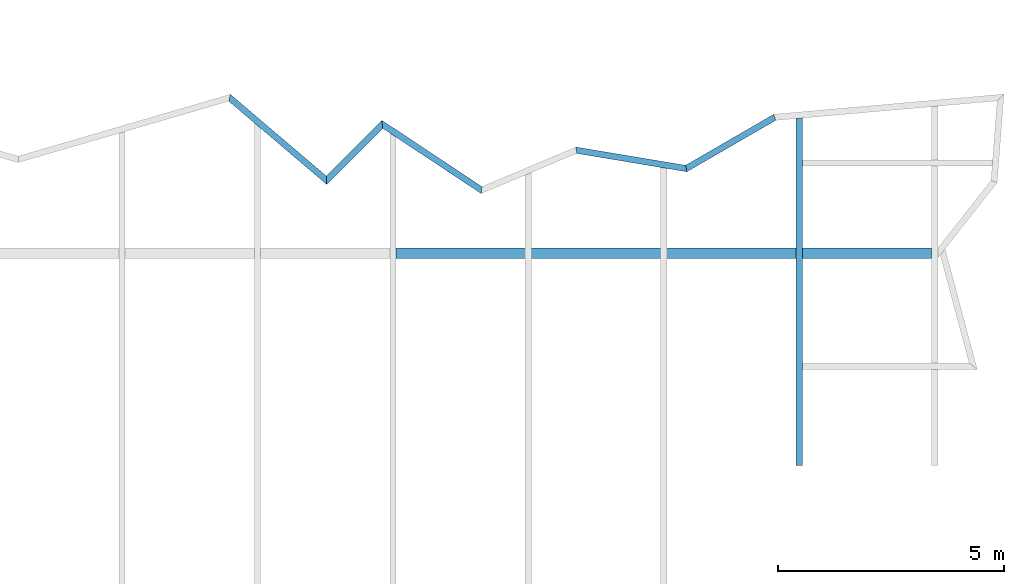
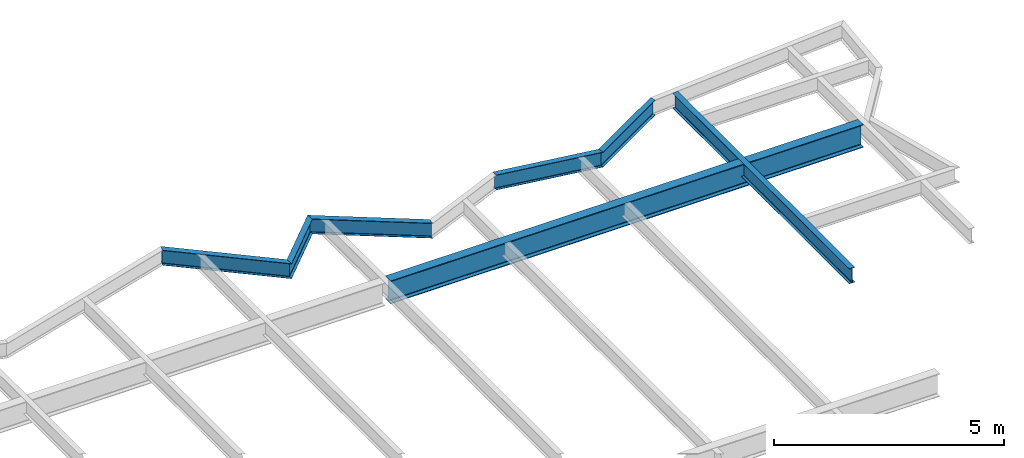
# One storey, part 22 of 23: 7 beams.
"""IFC2X3 building model written with IfcOpenShell, lengths in millimetres."""

from ifc_helpers import new_model, si_unit, origin, place, context, project, spatial, faceted_brep, material, element, save


model = new_model("IFC2X3")

# Units and contexts
context_of_model = context(None, 3, precision=1e-05, world=origin())
ifc_project = project(units=[si_unit("LENGTHUNIT", "METRE", prefix="MILLI")], contexts=[context_of_model])

# Building, storey
building = spatial("IfcBuilding", under=ifc_project, Name="Building", CompositionType="ELEMENT")
storey = spatial("IfcBuildingStorey", under=building, Name="FL5-FRM", CompositionType="ELEMENT")

# Beams
ifc_material_1 = material(Name="A992")
beam_1_placement = place(None, origin())
element("IfcBeam", 1, at=beam_1_placement, inside=storey, material=ifc_material_1, Name="Column598", context=context_of_model, shape_type="Brep", body=[
    faceted_brep([(72070.0, 26885.5, 17261.0), (72070.0, 27114.5, 17261.0), (83930.0, 27114.5, 17261.0), (83930.0, 26885.5, 17261.0), (72070.0, 27114.5, 17280.6), (83930.0, 27114.5, 17280.6), (72070.0, 27018.6, 17280.6), (83930.0, 27018.6, 17280.6), (72070.0, 27015.4, 17281.0), (83930.0, 27015.4, 17281.0), (72070.0, 27012.3, 17282.3), (83930.0, 27012.3, 17282.3), (72070.0, 27009.7, 17284.3), (83930.0, 27009.7, 17284.3), (72070.0, 27007.7, 17287.0), (83930.0, 27007.7, 17287.0), (72070.0, 27006.4, 17290.0), (83930.0, 27006.4, 17290.0), (72070.0, 27005.9, 17293.3), (83930.0, 27005.9, 17293.3), (72070.0, 27005.9, 17840.7), (83930.0, 27005.9, 17840.7), (72070.0, 27006.4, 17844.0), (83930.0, 27006.4, 17844.0), (72070.0, 27007.7, 17847.0), (83930.0, 27007.7, 17847.0), (72070.0, 27009.7, 17849.7), (83930.0, 27009.7, 17849.7), (72070.0, 27012.3, 17851.7), (83930.0, 27012.3, 17851.7), (72070.0, 27015.4, 17853.0), (83930.0, 27015.4, 17853.0), (72070.0, 27018.6, 17853.4), (83930.0, 27018.6, 17853.4), (72070.0, 27114.5, 17853.4), (83930.0, 27114.5, 17853.4), (72070.0, 27114.5, 17873.0), (83930.0, 27114.5, 17873.0), (72070.0, 26885.5, 17873.0), (83930.0, 26885.5, 17873.0), (72070.0, 26885.5, 17853.4), (83930.0, 26885.5, 17853.4), (72070.0, 26981.4, 17853.4), (83930.0, 26981.4, 17853.4), (72070.0, 26984.6, 17853.0), (83930.0, 26984.6, 17853.0), (72070.0, 26987.7, 17851.7), (83930.0, 26987.7, 17851.7), (72070.0, 26990.3, 17849.7), (83930.0, 26990.3, 17849.7), (72070.0, 26992.3, 17847.0), (83930.0, 26992.3, 17847.0), (72070.0, 26993.6, 17844.0), (83930.0, 26993.6, 17844.0), (72070.0, 26994.1, 17840.7), (83930.0, 26994.1, 17840.7), (72070.0, 26994.1, 17293.3), (83930.0, 26994.1, 17293.3), (72070.0, 26993.6, 17290.0), (83930.0, 26993.6, 17290.0), (72070.0, 26992.3, 17287.0), (83930.0, 26992.3, 17287.0), (72070.0, 26990.3, 17284.3), (83930.0, 26990.3, 17284.3), (72070.0, 26987.7, 17282.3), (83930.0, 26987.7, 17282.3), (72070.0, 26984.6, 17281.0), (83930.0, 26984.6, 17281.0), (72070.0, 26981.4, 17280.6), (83930.0, 26981.4, 17280.6), (72070.0, 26885.5, 17280.6), (83930.0, 26885.5, 17280.6)], [[[0, 1, 2, 3]], [[1, 4, 5, 2]], [[4, 6, 7, 5]], [[6, 8, 9, 7]], [[8, 10, 11, 9]], [[10, 12, 13, 11]], [[12, 14, 15, 13]], [[14, 16, 17, 15]], [[16, 18, 19, 17]], [[18, 20, 21, 19]], [[20, 22, 23, 21]], [[22, 24, 25, 23]], [[24, 26, 27, 25]], [[26, 28, 29, 27]], [[28, 30, 31, 29]], [[30, 32, 33, 31]], [[32, 34, 35, 33]], [[34, 36, 37, 35]], [[36, 38, 39, 37]], [[38, 40, 41, 39]], [[40, 42, 43, 41]], [[42, 44, 45, 43]], [[44, 46, 47, 45]], [[46, 48, 49, 47]], [[48, 50, 51, 49]], [[50, 52, 53, 51]], [[52, 54, 55, 53]], [[54, 56, 57, 55]], [[56, 58, 59, 57]], [[58, 60, 61, 59]], [[60, 62, 63, 61]], [[62, 64, 65, 63]], [[64, 66, 67, 65]], [[66, 68, 69, 67]], [[68, 70, 71, 69]], [[70, 0, 3, 71]], [[0, 70, 68, 66, 64, 62, 60, 58, 56, 54, 52, 50, 48, 46, 44, 42, 40, 38, 36, 34, 32, 30, 28, 26, 24, 22, 20, 18, 16, 14, 12, 10, 8, 6, 4, 1]], [[3, 2, 5, 7, 9, 11, 13, 15, 17, 19, 21, 23, 25, 27, 29, 31, 33, 35, 37, 39, 41, 43, 45, 47, 49, 51, 53, 55, 57, 59, 61, 63, 65, 67, 69, 71]]]),
])
ifc_material_2 = material(Name="A992")
beam_2_placement = place(None, origin())
element("IfcBeam", 2, at=beam_2_placement, inside=storey, material=ifc_material_2, Name="B938", context=context_of_model, shape_type="Brep", body=[
    faceted_brep([(80930.0, 29983.1, 17474.0), (81070.0, 29995.4, 17474.0), (81070.0, 22300.0, 17474.0), (80930.0, 22300.0, 17474.0), (81070.0, 29995.4, 17482.8), (81070.0, 22300.0, 17482.8), (81013.4, 29990.4, 17482.8), (81013.4, 22300.0, 17482.8), (81011.9, 29990.3, 17482.9), (81011.9, 22300.0, 17482.9), (81010.5, 29990.1, 17483.2), (81010.5, 22300.0, 17483.2), (81009.2, 29990.0, 17483.7), (81009.2, 22300.0, 17483.7), (81007.9, 29989.9, 17484.4), (81007.9, 22300.0, 17484.4), (81006.7, 29989.8, 17485.3), (81006.7, 22300.0, 17485.3), (81005.7, 29989.7, 17486.3), (81005.7, 22300.0, 17486.3), (81004.8, 29989.6, 17487.5), (81004.8, 22300.0, 17487.5), (81004.1, 29989.6, 17488.8), (81004.1, 22300.0, 17488.8), (81003.6, 29989.5, 17490.1), (81003.6, 22300.0, 17490.1), (81003.3, 29989.5, 17491.5), (81003.3, 22300.0, 17491.5), (81003.2, 29989.5, 17493.0), (81003.2, 22300.0, 17493.0), (81003.2, 29989.5, 17854.0), (81003.2, 22300.0, 17854.0), (81003.3, 29989.5, 17855.5), (81003.3, 22300.0, 17855.5), (81003.6, 29989.5, 17856.9), (81003.6, 22300.0, 17856.9), (81004.1, 29989.6, 17858.2), (81004.1, 22300.0, 17858.2), (81004.8, 29989.6, 17859.5), (81004.8, 22300.0, 17859.5), (81005.7, 29989.7, 17860.7), (81005.7, 22300.0, 17860.7), (81006.7, 29989.8, 17861.7), (81006.7, 22300.0, 17861.7), (81007.9, 29989.9, 17862.6), (81007.9, 22300.0, 17862.6), (81009.2, 29990.0, 17863.3), (81009.2, 22300.0, 17863.3), (81010.5, 29990.1, 17863.8), (81010.5, 22300.0, 17863.8), (81011.9, 29990.3, 17864.1), (81011.9, 22300.0, 17864.1), (81013.4, 29990.4, 17864.2), (81013.4, 22300.0, 17864.2), (81070.0, 29995.4, 17864.2), (81070.0, 22300.0, 17864.2), (81070.0, 29995.4, 17873.0), (81070.0, 22300.0, 17873.0), (80930.0, 29983.1, 17873.0), (80930.0, 22300.0, 17873.0), (80930.0, 29983.1, 17864.2), (80930.0, 22300.0, 17864.2), (80986.6, 29988.0, 17864.2), (80986.6, 22300.0, 17864.2), (80988.1, 29988.2, 17864.1), (80988.1, 22300.0, 17864.1), (80989.5, 29988.3, 17863.8), (80989.5, 22300.0, 17863.8), (80990.8, 29988.4, 17863.3), (80990.8, 22300.0, 17863.3), (80992.1, 29988.5, 17862.6), (80992.1, 22300.0, 17862.6), (80993.3, 29988.6, 17861.7), (80993.3, 22300.0, 17861.7), (80994.3, 29988.7, 17860.7), (80994.3, 22300.0, 17860.7), (80995.2, 29988.8, 17859.5), (80995.2, 22300.0, 17859.5), (80995.9, 29988.9, 17858.2), (80995.9, 22300.0, 17858.2), (80996.4, 29988.9, 17856.9), (80996.4, 22300.0, 17856.9), (80996.7, 29988.9, 17855.5), (80996.7, 22300.0, 17855.5), (80996.8, 29988.9, 17854.0), (80996.8, 22300.0, 17854.0), (80996.8, 29988.9, 17493.0), (80996.8, 22300.0, 17493.0), (80996.7, 29988.9, 17491.5), (80996.7, 22300.0, 17491.5), (80996.4, 29988.9, 17490.1), (80996.4, 22300.0, 17490.1), (80995.9, 29988.9, 17488.8), (80995.9, 22300.0, 17488.8), (80995.2, 29988.8, 17487.5), (80995.2, 22300.0, 17487.5), (80994.3, 29988.7, 17486.3), (80994.3, 22300.0, 17486.3), (80993.3, 29988.6, 17485.3), (80993.3, 22300.0, 17485.3), (80992.1, 29988.5, 17484.4), (80992.1, 22300.0, 17484.4), (80990.8, 29988.4, 17483.7), (80990.8, 22300.0, 17483.7), (80989.5, 29988.3, 17483.2), (80989.5, 22300.0, 17483.2), (80988.1, 29988.2, 17482.9), (80988.1, 22300.0, 17482.9), (80986.6, 29988.0, 17482.8), (80986.6, 22300.0, 17482.8), (80930.0, 29983.1, 17482.8), (80930.0, 22300.0, 17482.8)], [[[0, 1, 2, 3]], [[1, 4, 5, 2]], [[4, 6, 7, 5]], [[6, 8, 9, 7]], [[8, 10, 11, 9]], [[10, 12, 13, 11]], [[12, 14, 15, 13]], [[14, 16, 17, 15]], [[16, 18, 19, 17]], [[18, 20, 21, 19]], [[20, 22, 23, 21]], [[22, 24, 25, 23]], [[24, 26, 27, 25]], [[26, 28, 29, 27]], [[28, 30, 31, 29]], [[30, 32, 33, 31]], [[32, 34, 35, 33]], [[34, 36, 37, 35]], [[36, 38, 39, 37]], [[38, 40, 41, 39]], [[40, 42, 43, 41]], [[42, 44, 45, 43]], [[44, 46, 47, 45]], [[46, 48, 49, 47]], [[48, 50, 51, 49]], [[50, 52, 53, 51]], [[52, 54, 55, 53]], [[54, 56, 57, 55]], [[56, 58, 59, 57]], [[58, 60, 61, 59]], [[60, 62, 63, 61]], [[62, 64, 65, 63]], [[64, 66, 67, 65]], [[66, 68, 69, 67]], [[68, 70, 71, 69]], [[70, 72, 73, 71]], [[72, 74, 75, 73]], [[74, 76, 77, 75]], [[76, 78, 79, 77]], [[78, 80, 81, 79]], [[80, 82, 83, 81]], [[82, 84, 85, 83]], [[84, 86, 87, 85]], [[86, 88, 89, 87]], [[88, 90, 91, 89]], [[90, 92, 93, 91]], [[92, 94, 95, 93]], [[94, 96, 97, 95]], [[96, 98, 99, 97]], [[98, 100, 101, 99]], [[100, 102, 103, 101]], [[102, 104, 105, 103]], [[104, 106, 107, 105]], [[106, 108, 109, 107]], [[108, 110, 111, 109]], [[110, 0, 3, 111]], [[0, 110, 108, 106, 104, 102, 100, 98, 96, 94, 92, 90, 88, 86, 84, 82, 80, 78, 76, 74, 72, 70, 68, 66, 64, 62, 60, 58, 56, 54, 52, 50, 48, 46, 44, 42, 40, 38, 36, 34, 32, 30, 28, 26, 24, 22, 20, 18, 16, 14, 12, 10, 8, 6, 4, 1]], [[3, 2, 5, 7, 9, 11, 13, 15, 17, 19, 21, 23, 25, 27, 29, 31, 33, 35, 37, 39, 41, 43, 45, 47, 49, 51, 53, 55, 57, 59, 61, 63, 65, 67, 69, 71, 73, 75, 77, 79, 81, 83, 85, 87, 89, 91, 93, 95, 97, 99, 101, 103, 105, 107, 109, 111]]]),
])
ifc_material_3 = material(Name="A992")
beam_3_placement = place(None, origin())
element("IfcBeam", 3, at=beam_3_placement, inside=storey, material=ifc_material_3, Name="B939", context=context_of_model, shape_type="Brep", body=[
    faceted_brep([(78508.3, 28804.1, 17474.0), (78481.7, 28950.4, 17474.0), (80432.8, 30080.0, 17474.0), (80476.0, 29943.2, 17474.0), (78481.7, 28950.4, 17482.8), (80432.8, 30080.0, 17482.8), (78492.5, 28891.3, 17482.8), (80450.2, 30024.7, 17482.8), (78492.8, 28889.8, 17482.9), (80450.7, 30023.3, 17482.9), (78493.0, 28888.3, 17483.2), (80451.1, 30021.9, 17483.2), (78493.3, 28886.8, 17483.7), (80451.5, 30020.6, 17483.7), (78493.5, 28885.5, 17484.4), (80451.9, 30019.3, 17484.4), (78493.7, 28884.3, 17485.3), (80452.3, 30018.2, 17485.3), (78493.9, 28883.2, 17486.3), (80452.6, 30017.2, 17486.3), (78494.1, 28882.3, 17487.5), (80452.9, 30016.3, 17487.5), (78494.2, 28881.6, 17488.8), (80453.1, 30015.6, 17488.8), (78494.3, 28881.0, 17490.1), (80453.3, 30015.2, 17490.1), (78494.4, 28880.7, 17491.5), (80453.3, 30014.9, 17491.5), (78494.4, 28880.6, 17493.0), (80453.4, 30014.7, 17493.0), (78494.4, 28880.6, 17854.0), (80453.4, 30014.7, 17854.0), (78494.4, 28880.7, 17855.5), (80453.3, 30014.9, 17855.5), (78494.3, 28881.0, 17856.9), (80453.3, 30015.2, 17856.9), (78494.2, 28881.6, 17858.2), (80453.1, 30015.6, 17858.2), (78494.1, 28882.3, 17859.5), (80452.9, 30016.3, 17859.5), (78493.9, 28883.2, 17860.7), (80452.6, 30017.2, 17860.7), (78493.7, 28884.3, 17861.7), (80452.3, 30018.2, 17861.7), (78493.5, 28885.5, 17862.6), (80451.9, 30019.3, 17862.6), (78493.3, 28886.8, 17863.3), (80451.5, 30020.6, 17863.3), (78493.0, 28888.3, 17863.8), (80451.1, 30021.9, 17863.8), (78492.8, 28889.8, 17864.1), (80450.7, 30023.3, 17864.1), (78492.5, 28891.3, 17864.2), (80450.2, 30024.7, 17864.2), (78481.7, 28950.4, 17864.2), (80432.8, 30080.0, 17864.2), (78481.7, 28950.4, 17873.0), (80432.8, 30080.0, 17873.0), (78508.3, 28804.1, 17873.0), (80476.0, 29943.2, 17873.0), (78508.3, 28804.1, 17864.2), (80476.0, 29943.2, 17864.2), (78497.6, 28863.3, 17864.2), (80458.5, 29998.5, 17864.2), (78497.3, 28864.8, 17864.1), (80458.1, 29999.9, 17864.1), (78497.0, 28866.3, 17863.8), (80457.6, 30001.3, 17863.8), (78496.8, 28867.7, 17863.3), (80457.2, 30002.7, 17863.3), (78496.5, 28869.0, 17862.6), (80456.8, 30003.9, 17862.6), (78496.3, 28870.2, 17861.7), (80456.4, 30005.1, 17861.7), (78496.1, 28871.3, 17860.7), (80456.1, 30006.1, 17860.7), (78495.9, 28872.2, 17859.5), (80455.9, 30006.9, 17859.5), (78495.8, 28873.0, 17858.2), (80455.6, 30007.6, 17858.2), (78495.7, 28873.5, 17856.9), (80455.5, 30008.1, 17856.9), (78495.7, 28873.8, 17855.5), (80455.4, 30008.4, 17855.5), (78495.6, 28873.9, 17854.0), (80455.4, 30008.5, 17854.0), (78495.6, 28873.9, 17493.0), (80455.4, 30008.5, 17493.0), (78495.7, 28873.8, 17491.5), (80455.4, 30008.4, 17491.5), (78495.7, 28873.5, 17490.1), (80455.5, 30008.1, 17490.1), (78495.8, 28873.0, 17488.8), (80455.6, 30007.6, 17488.8), (78495.9, 28872.2, 17487.5), (80455.9, 30006.9, 17487.5), (78496.1, 28871.3, 17486.3), (80456.1, 30006.1, 17486.3), (78496.3, 28870.2, 17485.3), (80456.4, 30005.1, 17485.3), (78496.5, 28869.0, 17484.4), (80456.8, 30003.9, 17484.4), (78496.8, 28867.7, 17483.7), (80457.2, 30002.7, 17483.7), (78497.0, 28866.3, 17483.2), (80457.6, 30001.3, 17483.2), (78497.3, 28864.8, 17482.9), (80458.1, 29999.9, 17482.9), (78497.6, 28863.3, 17482.8), (80458.5, 29998.5, 17482.8), (78508.3, 28804.1, 17482.8), (80476.0, 29943.2, 17482.8)], [[[0, 1, 2, 3]], [[1, 4, 5, 2]], [[4, 6, 7, 5]], [[6, 8, 9, 7]], [[8, 10, 11, 9]], [[10, 12, 13, 11]], [[12, 14, 15, 13]], [[14, 16, 17, 15]], [[16, 18, 19, 17]], [[18, 20, 21, 19]], [[20, 22, 23, 21]], [[22, 24, 25, 23]], [[24, 26, 27, 25]], [[26, 28, 29, 27]], [[28, 30, 31, 29]], [[30, 32, 33, 31]], [[32, 34, 35, 33]], [[34, 36, 37, 35]], [[36, 38, 39, 37]], [[38, 40, 41, 39]], [[40, 42, 43, 41]], [[42, 44, 45, 43]], [[44, 46, 47, 45]], [[46, 48, 49, 47]], [[48, 50, 51, 49]], [[50, 52, 53, 51]], [[52, 54, 55, 53]], [[54, 56, 57, 55]], [[56, 58, 59, 57]], [[58, 60, 61, 59]], [[60, 62, 63, 61]], [[62, 64, 65, 63]], [[64, 66, 67, 65]], [[66, 68, 69, 67]], [[68, 70, 71, 69]], [[70, 72, 73, 71]], [[72, 74, 75, 73]], [[74, 76, 77, 75]], [[76, 78, 79, 77]], [[78, 80, 81, 79]], [[80, 82, 83, 81]], [[82, 84, 85, 83]], [[84, 86, 87, 85]], [[86, 88, 89, 87]], [[88, 90, 91, 89]], [[90, 92, 93, 91]], [[92, 94, 95, 93]], [[94, 96, 97, 95]], [[96, 98, 99, 97]], [[98, 100, 101, 99]], [[100, 102, 103, 101]], [[102, 104, 105, 103]], [[104, 106, 107, 105]], [[106, 108, 109, 107]], [[108, 110, 111, 109]], [[110, 0, 3, 111]], [[0, 110, 108, 106, 104, 102, 100, 98, 96, 94, 92, 90, 88, 86, 84, 82, 80, 78, 76, 74, 72, 70, 68, 66, 64, 62, 60, 58, 56, 54, 52, 50, 48, 46, 44, 42, 40, 38, 36, 34, 32, 30, 28, 26, 24, 22, 20, 18, 16, 14, 12, 10, 8, 6, 4, 1]], [[3, 2, 5, 7, 9, 11, 13, 15, 17, 19, 21, 23, 25, 27, 29, 31, 33, 35, 37, 39, 41, 43, 45, 47, 49, 51, 53, 55, 57, 59, 61, 63, 65, 67, 69, 71, 73, 75, 77, 79, 81, 83, 85, 87, 89, 91, 93, 95, 97, 99, 101, 103, 105, 107, 109, 111]]]),
])
ifc_material_4 = material(Name="A992")
beam_4_placement = place(None, origin())
element("IfcBeam", 4, at=beam_4_placement, inside=storey, material=ifc_material_4, Name="B941", context=context_of_model, shape_type="Brep", body=[
    faceted_brep([(76069.1, 29210.6, 17474.0), (76052.1, 29355.4, 17474.0), (78481.7, 28950.4, 17474.0), (78508.3, 28804.1, 17474.0), (76052.1, 29355.4, 17482.8), (78481.7, 28950.4, 17482.8), (76059.0, 29296.9, 17482.8), (78492.5, 28891.3, 17482.8), (76059.2, 29295.4, 17482.9), (78492.8, 28889.8, 17482.9), (76059.3, 29293.9, 17483.2), (78493.0, 28888.3, 17483.2), (76059.5, 29292.5, 17483.7), (78493.3, 28886.8, 17483.7), (76059.6, 29291.2, 17484.4), (78493.5, 28885.5, 17484.4), (76059.8, 29290.0, 17485.3), (78493.7, 28884.3, 17485.3), (76059.9, 29288.9, 17486.3), (78493.9, 28883.2, 17486.3), (76060.0, 29288.0, 17487.5), (78494.1, 28882.3, 17487.5), (76060.1, 29287.3, 17488.8), (78494.2, 28881.6, 17488.8), (76060.2, 29286.7, 17490.1), (78494.3, 28881.0, 17490.1), (76060.2, 29286.4, 17491.5), (78494.4, 28880.7, 17491.5), (76060.2, 29286.3, 17493.0), (78494.4, 28880.6, 17493.0), (76060.2, 29286.3, 17854.0), (78494.4, 28880.6, 17854.0), (76060.2, 29286.4, 17855.5), (78494.4, 28880.7, 17855.5), (76060.2, 29286.7, 17856.9), (78494.3, 28881.0, 17856.9), (76060.1, 29287.3, 17858.2), (78494.2, 28881.6, 17858.2), (76060.0, 29288.0, 17859.5), (78494.1, 28882.3, 17859.5), (76059.9, 29288.9, 17860.7), (78493.9, 28883.2, 17860.7), (76059.8, 29290.0, 17861.7), (78493.7, 28884.3, 17861.7), (76059.6, 29291.2, 17862.6), (78493.5, 28885.5, 17862.6), (76059.5, 29292.5, 17863.3), (78493.3, 28886.8, 17863.3), (76059.3, 29293.9, 17863.8), (78493.0, 28888.3, 17863.8), (76059.2, 29295.4, 17864.1), (78492.8, 28889.8, 17864.1), (76059.0, 29296.9, 17864.2), (78492.5, 28891.3, 17864.2), (76052.1, 29355.4, 17864.2), (78481.7, 28950.4, 17864.2), (76052.1, 29355.4, 17873.0), (78481.7, 28950.4, 17873.0), (76069.1, 29210.6, 17873.0), (78508.3, 28804.1, 17873.0), (76069.1, 29210.6, 17864.2), (78508.3, 28804.1, 17864.2), (76062.2, 29269.1, 17864.2), (78497.6, 28863.3, 17864.2), (76062.1, 29270.6, 17864.1), (78497.3, 28864.8, 17864.1), (76061.9, 29272.1, 17863.8), (78497.0, 28866.3, 17863.8), (76061.7, 29273.5, 17863.3), (78496.8, 28867.7, 17863.3), (76061.6, 29274.8, 17862.6), (78496.5, 28869.0, 17862.6), (76061.4, 29276.1, 17861.7), (78496.3, 28870.2, 17861.7), (76061.3, 29277.1, 17860.7), (78496.1, 28871.3, 17860.7), (76061.2, 29278.0, 17859.5), (78495.9, 28872.2, 17859.5), (76061.1, 29278.7, 17858.2), (78495.8, 28873.0, 17858.2), (76061.0, 29279.3, 17856.9), (78495.7, 28873.5, 17856.9), (76061.0, 29279.6, 17855.5), (78495.7, 28873.8, 17855.5), (76061.0, 29279.7, 17854.0), (78495.6, 28873.9, 17854.0), (76061.0, 29279.7, 17493.0), (78495.6, 28873.9, 17493.0), (76061.0, 29279.6, 17491.5), (78495.7, 28873.8, 17491.5), (76061.0, 29279.3, 17490.1), (78495.7, 28873.5, 17490.1), (76061.1, 29278.7, 17488.8), (78495.8, 28873.0, 17488.8), (76061.2, 29278.0, 17487.5), (78495.9, 28872.2, 17487.5), (76061.3, 29277.1, 17486.3), (78496.1, 28871.3, 17486.3), (76061.4, 29276.1, 17485.3), (78496.3, 28870.2, 17485.3), (76061.6, 29274.8, 17484.4), (78496.5, 28869.0, 17484.4), (76061.7, 29273.5, 17483.7), (78496.8, 28867.7, 17483.7), (76061.9, 29272.1, 17483.2), (78497.0, 28866.3, 17483.2), (76062.1, 29270.6, 17482.9), (78497.3, 28864.8, 17482.9), (76062.2, 29269.1, 17482.8), (78497.6, 28863.3, 17482.8), (76069.1, 29210.6, 17482.8), (78508.3, 28804.1, 17482.8)], [[[0, 1, 2, 3]], [[1, 4, 5, 2]], [[4, 6, 7, 5]], [[6, 8, 9, 7]], [[8, 10, 11, 9]], [[10, 12, 13, 11]], [[12, 14, 15, 13]], [[14, 16, 17, 15]], [[16, 18, 19, 17]], [[18, 20, 21, 19]], [[20, 22, 23, 21]], [[22, 24, 25, 23]], [[24, 26, 27, 25]], [[26, 28, 29, 27]], [[28, 30, 31, 29]], [[30, 32, 33, 31]], [[32, 34, 35, 33]], [[34, 36, 37, 35]], [[36, 38, 39, 37]], [[38, 40, 41, 39]], [[40, 42, 43, 41]], [[42, 44, 45, 43]], [[44, 46, 47, 45]], [[46, 48, 49, 47]], [[48, 50, 51, 49]], [[50, 52, 53, 51]], [[52, 54, 55, 53]], [[54, 56, 57, 55]], [[56, 58, 59, 57]], [[58, 60, 61, 59]], [[60, 62, 63, 61]], [[62, 64, 65, 63]], [[64, 66, 67, 65]], [[66, 68, 69, 67]], [[68, 70, 71, 69]], [[70, 72, 73, 71]], [[72, 74, 75, 73]], [[74, 76, 77, 75]], [[76, 78, 79, 77]], [[78, 80, 81, 79]], [[80, 82, 83, 81]], [[82, 84, 85, 83]], [[84, 86, 87, 85]], [[86, 88, 89, 87]], [[88, 90, 91, 89]], [[90, 92, 93, 91]], [[92, 94, 95, 93]], [[94, 96, 97, 95]], [[96, 98, 99, 97]], [[98, 100, 101, 99]], [[100, 102, 103, 101]], [[102, 104, 105, 103]], [[104, 106, 107, 105]], [[106, 108, 109, 107]], [[108, 110, 111, 109]], [[110, 0, 3, 111]], [[0, 110, 108, 106, 104, 102, 100, 98, 96, 94, 92, 90, 88, 86, 84, 82, 80, 78, 76, 74, 72, 70, 68, 66, 64, 62, 60, 58, 56, 54, 52, 50, 48, 46, 44, 42, 40, 38, 36, 34, 32, 30, 28, 26, 24, 22, 20, 18, 16, 14, 12, 10, 8, 6, 4, 1]], [[3, 2, 5, 7, 9, 11, 13, 15, 17, 19, 21, 23, 25, 27, 29, 31, 33, 35, 37, 39, 41, 43, 45, 47, 49, 51, 53, 55, 57, 59, 61, 63, 65, 67, 69, 71, 73, 75, 77, 79, 81, 83, 85, 87, 89, 91, 93, 95, 97, 99, 101, 103, 105, 107, 109, 111]]]),
])
ifc_material_5 = material(Name="A992")
beam_5_placement = place(None, origin())
element("IfcBeam", 5, at=beam_5_placement, inside=storey, material=ifc_material_5, Name="B944", context=context_of_model, shape_type="Brep", body=[
    faceted_brep([(71773.4, 29767.3, 17474.0), (71755.4, 29947.3, 17474.0), (73969.9, 28478.7, 17474.0), (73955.0, 28320.5, 17474.0), (71755.4, 29947.3, 17482.8), (73969.9, 28478.7, 17482.8), (71762.7, 29874.5, 17482.8), (73963.9, 28414.7, 17482.8), (71762.9, 29872.5, 17482.9), (73963.7, 28412.9, 17482.9), (71763.1, 29870.5, 17483.3), (73963.6, 28411.2, 17483.3), (71763.3, 29868.6, 17483.9), (73963.4, 28409.5, 17483.9), (71763.5, 29866.9, 17484.7), (73963.3, 28408.0, 17484.7), (71763.6, 29865.3, 17485.8), (73963.1, 28406.6, 17485.8), (71763.8, 29864.0, 17487.0), (73963.0, 28405.4, 17487.0), (71763.9, 29862.9, 17488.3), (73962.9, 28404.5, 17488.4), (71763.9, 29862.1, 17489.8), (73962.9, 28403.8, 17489.8), (71764.0, 29861.6, 17491.4), (73962.8, 28403.3, 17491.4), (71764.0, 29861.4, 17493.0), (73962.8, 28403.2, 17493.0), (71764.0, 29861.4, 17854.0), (73962.8, 28403.2, 17854.0), (71764.0, 29861.6, 17855.6), (73962.8, 28403.3, 17855.6), (71763.9, 29862.1, 17857.2), (73962.9, 28403.8, 17857.2), (71763.9, 29862.9, 17858.7), (73962.9, 28404.5, 17858.6), (71763.8, 29864.0, 17860.0), (73963.0, 28405.4, 17860.0), (71763.6, 29865.3, 17861.2), (73963.1, 28406.6, 17861.2), (71763.5, 29866.9, 17862.3), (73963.3, 28408.0, 17862.3), (71763.3, 29868.6, 17863.1), (73963.4, 28409.5, 17863.1), (71763.1, 29870.5, 17863.7), (73963.6, 28411.2, 17863.7), (71762.9, 29872.5, 17864.1), (73963.7, 28412.9, 17864.1), (71762.7, 29874.5, 17864.2), (73963.9, 28414.7, 17864.2), (71755.4, 29947.3, 17864.2), (73969.9, 28478.7, 17864.2), (71755.4, 29947.3, 17873.0), (73969.9, 28478.7, 17873.0), (71773.4, 29767.3, 17873.0), (73955.0, 28320.5, 17873.0), (71773.4, 29767.3, 17864.2), (73955.0, 28320.5, 17864.2), (71766.1, 29840.1, 17864.2), (73961.0, 28384.4, 17864.2), (71765.9, 29842.1, 17864.1), (73961.2, 28386.2, 17864.1), (71765.7, 29844.1, 17863.7), (73961.4, 28388.0, 17863.7), (71765.6, 29846.0, 17863.1), (73961.5, 28389.7, 17863.1), (71765.4, 29847.8, 17862.3), (73961.7, 28391.2, 17862.3), (71765.2, 29849.4, 17861.2), (73961.8, 28392.6, 17861.2), (71765.1, 29850.7, 17860.0), (73961.9, 28393.7, 17860.0), (71765.0, 29851.8, 17858.7), (73962.0, 28394.7, 17858.6), (71764.9, 29852.5, 17857.2), (73962.1, 28395.4, 17857.2), (71764.9, 29853.0, 17855.6), (73962.1, 28395.8, 17855.6), (71764.8, 29853.2, 17854.0), (73962.1, 28396.0, 17854.0), (71764.8, 29853.2, 17493.0), (73962.1, 28396.0, 17493.0), (71764.9, 29853.0, 17491.4), (73962.1, 28395.8, 17491.4), (71764.9, 29852.5, 17489.8), (73962.1, 28395.4, 17489.8), (71765.0, 29851.8, 17488.3), (73962.0, 28394.7, 17488.4), (71765.1, 29850.7, 17487.0), (73961.9, 28393.7, 17487.0), (71765.2, 29849.4, 17485.8), (73961.8, 28392.6, 17485.8), (71765.4, 29847.8, 17484.7), (73961.7, 28391.2, 17484.7), (71765.6, 29846.0, 17483.9), (73961.5, 28389.7, 17483.9), (71765.7, 29844.1, 17483.3), (73961.4, 28388.0, 17483.3), (71765.9, 29842.1, 17482.9), (73961.2, 28386.2, 17482.9), (71766.1, 29840.1, 17482.8), (73961.0, 28384.4, 17482.8), (71773.4, 29767.3, 17482.8), (73955.0, 28320.5, 17482.8)], [[[0, 1, 2, 3]], [[1, 4, 5, 2]], [[4, 6, 7, 5]], [[6, 8, 9, 7]], [[8, 10, 11, 9]], [[10, 12, 13, 11]], [[12, 14, 15, 13]], [[14, 16, 17, 15]], [[16, 18, 19, 17]], [[18, 20, 21, 19]], [[20, 22, 23, 21]], [[22, 24, 25, 23]], [[24, 26, 27, 25]], [[26, 28, 29, 27]], [[28, 30, 31, 29]], [[30, 32, 33, 31]], [[32, 34, 35, 33]], [[34, 36, 37, 35]], [[36, 38, 39, 37]], [[38, 40, 41, 39]], [[40, 42, 43, 41]], [[42, 44, 45, 43]], [[44, 46, 47, 45]], [[46, 48, 49, 47]], [[48, 50, 51, 49]], [[50, 52, 53, 51]], [[52, 54, 55, 53]], [[54, 56, 57, 55]], [[56, 58, 59, 57]], [[58, 60, 61, 59]], [[60, 62, 63, 61]], [[62, 64, 65, 63]], [[64, 66, 67, 65]], [[66, 68, 69, 67]], [[68, 70, 71, 69]], [[70, 72, 73, 71]], [[72, 74, 75, 73]], [[74, 76, 77, 75]], [[76, 78, 79, 77]], [[78, 80, 81, 79]], [[80, 82, 83, 81]], [[82, 84, 85, 83]], [[84, 86, 87, 85]], [[86, 88, 89, 87]], [[88, 90, 91, 89]], [[90, 92, 93, 91]], [[92, 94, 95, 93]], [[94, 96, 97, 95]], [[96, 98, 99, 97]], [[98, 100, 101, 99]], [[100, 102, 103, 101]], [[102, 0, 3, 103]], [[0, 102, 100, 98, 96, 94, 92, 90, 88, 86, 84, 82, 80, 78, 76, 74, 72, 70, 68, 66, 64, 62, 60, 58, 56, 54, 52, 50, 48, 46, 44, 42, 40, 38, 36, 34, 32, 30, 28, 26, 24, 22, 20, 18, 16, 14, 12, 10, 8, 6, 4, 1]], [[3, 2, 5, 7, 9, 11, 13, 15, 17, 19, 21, 23, 25, 27, 29, 31, 33, 35, 37, 39, 41, 43, 45, 47, 49, 51, 53, 55, 57, 59, 61, 63, 65, 67, 69, 71, 73, 75, 77, 79, 81, 83, 85, 87, 89, 91, 93, 95, 97, 99, 101, 103]]]),
])
ifc_material_6 = material(Name="A992")
beam_6_placement = place(None, origin())
element("IfcBeam", 6, at=beam_6_placement, inside=storey, material=ifc_material_6, Name="B946", context=context_of_model, shape_type="Brep", body=[
    faceted_brep([(70531.4, 28525.3, 17474.0), (70523.7, 28715.5, 17474.0), (71755.4, 29947.3, 17474.0), (71773.4, 29767.3, 17474.0), (70523.7, 28715.5, 17482.8), (71755.4, 29947.3, 17482.8), (70526.8, 28638.6, 17482.8), (71762.7, 29874.5, 17482.8), (70526.9, 28636.5, 17482.9), (71762.9, 29872.5, 17482.9), (70526.9, 28634.3, 17483.3), (71763.1, 29870.5, 17483.3), (70527.0, 28632.4, 17483.9), (71763.3, 29868.6, 17483.9), (70527.1, 28630.5, 17484.7), (71763.5, 29866.9, 17484.7), (70527.2, 28628.8, 17485.8), (71763.6, 29865.3, 17485.8), (70527.2, 28627.4, 17487.0), (71763.8, 29864.0, 17487.0), (70527.3, 28626.3, 17488.3), (71763.9, 29862.9, 17488.3), (70527.3, 28625.5, 17489.8), (71763.9, 29862.1, 17489.8), (70527.3, 28625.0, 17491.4), (71764.0, 29861.6, 17491.4), (70527.3, 28624.7, 17493.0), (71764.0, 29861.4, 17493.0), (70527.3, 28624.7, 17854.0), (71764.0, 29861.4, 17854.0), (70527.3, 28625.0, 17855.6), (71764.0, 29861.6, 17855.6), (70527.3, 28625.5, 17857.2), (71763.9, 29862.1, 17857.2), (70527.3, 28626.3, 17858.7), (71763.9, 29862.9, 17858.7), (70527.2, 28627.4, 17860.0), (71763.8, 29864.0, 17860.0), (70527.2, 28628.8, 17861.2), (71763.6, 29865.3, 17861.2), (70527.1, 28630.5, 17862.3), (71763.5, 29866.9, 17862.3), (70527.0, 28632.4, 17863.1), (71763.3, 29868.6, 17863.1), (70526.9, 28634.3, 17863.7), (71763.1, 29870.5, 17863.7), (70526.9, 28636.5, 17864.1), (71762.9, 29872.5, 17864.1), (70526.8, 28638.6, 17864.2), (71762.7, 29874.5, 17864.2), (70523.7, 28715.5, 17864.2), (71755.4, 29947.3, 17864.2), (70523.7, 28715.5, 17873.0), (71755.4, 29947.3, 17873.0), (70531.4, 28525.3, 17873.0), (71773.4, 29767.3, 17873.0), (70531.4, 28525.3, 17864.2), (71773.4, 29767.3, 17864.2), (70528.2, 28602.2, 17864.2), (71766.1, 29840.1, 17864.2), (70528.2, 28604.3, 17864.1), (71765.9, 29842.1, 17864.1), (70528.1, 28606.5, 17863.7), (71765.7, 29844.1, 17863.7), (70528.0, 28608.4, 17863.1), (71765.6, 29846.0, 17863.1), (70527.9, 28610.3, 17862.3), (71765.4, 29847.8, 17862.3), (70527.8, 28612.0, 17861.2), (71765.2, 29849.4, 17861.2), (70527.8, 28613.4, 17860.0), (71765.1, 29850.7, 17860.0), (70527.7, 28614.5, 17858.7), (71765.0, 29851.8, 17858.7), (70527.7, 28615.3, 17857.2), (71764.9, 29852.5, 17857.2), (70527.7, 28615.8, 17855.6), (71764.9, 29853.0, 17855.6), (70527.7, 28616.1, 17854.0), (71764.8, 29853.2, 17854.0), (70527.7, 28616.1, 17493.0), (71764.8, 29853.2, 17493.0), (70527.7, 28615.8, 17491.4), (71764.9, 29853.0, 17491.4), (70527.7, 28615.3, 17489.8), (71764.9, 29852.5, 17489.8), (70527.7, 28614.5, 17488.3), (71765.0, 29851.8, 17488.3), (70527.8, 28613.4, 17487.0), (71765.1, 29850.7, 17487.0), (70527.8, 28612.0, 17485.8), (71765.2, 29849.4, 17485.8), (70527.9, 28610.3, 17484.7), (71765.4, 29847.8, 17484.7), (70528.0, 28608.4, 17483.9), (71765.6, 29846.0, 17483.9), (70528.1, 28606.5, 17483.3), (71765.7, 29844.1, 17483.3), (70528.2, 28604.3, 17482.9), (71765.9, 29842.1, 17482.9), (70528.2, 28602.2, 17482.8), (71766.1, 29840.1, 17482.8), (70531.4, 28525.3, 17482.8), (71773.4, 29767.3, 17482.8)], [[[0, 1, 2, 3]], [[1, 4, 5, 2]], [[4, 6, 7, 5]], [[6, 8, 9, 7]], [[8, 10, 11, 9]], [[10, 12, 13, 11]], [[12, 14, 15, 13]], [[14, 16, 17, 15]], [[16, 18, 19, 17]], [[18, 20, 21, 19]], [[20, 22, 23, 21]], [[22, 24, 25, 23]], [[24, 26, 27, 25]], [[26, 28, 29, 27]], [[28, 30, 31, 29]], [[30, 32, 33, 31]], [[32, 34, 35, 33]], [[34, 36, 37, 35]], [[36, 38, 39, 37]], [[38, 40, 41, 39]], [[40, 42, 43, 41]], [[42, 44, 45, 43]], [[44, 46, 47, 45]], [[46, 48, 49, 47]], [[48, 50, 51, 49]], [[50, 52, 53, 51]], [[52, 54, 55, 53]], [[54, 56, 57, 55]], [[56, 58, 59, 57]], [[58, 60, 61, 59]], [[60, 62, 63, 61]], [[62, 64, 65, 63]], [[64, 66, 67, 65]], [[66, 68, 69, 67]], [[68, 70, 71, 69]], [[70, 72, 73, 71]], [[72, 74, 75, 73]], [[74, 76, 77, 75]], [[76, 78, 79, 77]], [[78, 80, 81, 79]], [[80, 82, 83, 81]], [[82, 84, 85, 83]], [[84, 86, 87, 85]], [[86, 88, 89, 87]], [[88, 90, 91, 89]], [[90, 92, 93, 91]], [[92, 94, 95, 93]], [[94, 96, 97, 95]], [[96, 98, 99, 97]], [[98, 100, 101, 99]], [[100, 102, 103, 101]], [[102, 0, 3, 103]], [[0, 102, 100, 98, 96, 94, 92, 90, 88, 86, 84, 82, 80, 78, 76, 74, 72, 70, 68, 66, 64, 62, 60, 58, 56, 54, 52, 50, 48, 46, 44, 42, 40, 38, 36, 34, 32, 30, 28, 26, 24, 22, 20, 18, 16, 14, 12, 10, 8, 6, 4, 1]], [[3, 2, 5, 7, 9, 11, 13, 15, 17, 19, 21, 23, 25, 27, 29, 31, 33, 35, 37, 39, 41, 43, 45, 47, 49, 51, 53, 55, 57, 59, 61, 63, 65, 67, 69, 71, 73, 75, 77, 79, 81, 83, 85, 87, 89, 91, 93, 95, 97, 99, 101, 103]]]),
])
ifc_material_7 = material(Name="A992")
beam_7_placement = place(None, origin())
element("IfcBeam", 7, at=beam_7_placement, inside=storey, material=ifc_material_7, Name="B947", context=context_of_model, shape_type="Brep", body=[
    faceted_brep([(68364.8, 30366.8, 17474.0), (68398.0, 30522.3, 17474.0), (70523.7, 28715.5, 17474.0), (70531.4, 28525.3, 17474.0), (68398.0, 30522.3, 17482.8), (70523.7, 28715.5, 17482.8), (68384.6, 30459.5, 17482.8), (70526.8, 28638.6, 17482.8), (68384.2, 30457.7, 17482.9), (70526.9, 28636.5, 17482.9), (68383.8, 30456.0, 17483.3), (70526.9, 28634.3, 17483.3), (68383.5, 30454.3, 17483.9), (70527.0, 28632.4, 17483.9), (68383.2, 30452.8, 17484.7), (70527.1, 28630.5, 17484.7), (68382.9, 30451.5, 17485.8), (70527.2, 28628.8, 17485.8), (68382.6, 30450.3, 17487.0), (70527.2, 28627.4, 17487.0), (68382.4, 30449.4, 17488.4), (70527.3, 28626.3, 17488.3), (68382.3, 30448.7, 17489.8), (70527.3, 28625.5, 17489.8), (68382.2, 30448.3, 17491.4), (70527.3, 28625.0, 17491.4), (68382.2, 30448.1, 17493.0), (70527.3, 28624.7, 17493.0), (68382.2, 30448.1, 17854.0), (70527.3, 28624.7, 17854.0), (68382.2, 30448.3, 17855.6), (70527.3, 28625.0, 17855.6), (68382.3, 30448.7, 17857.2), (70527.3, 28625.5, 17857.2), (68382.4, 30449.4, 17858.6), (70527.3, 28626.3, 17858.7), (68382.6, 30450.3, 17860.0), (70527.2, 28627.4, 17860.0), (68382.9, 30451.5, 17861.2), (70527.2, 28628.8, 17861.2), (68383.2, 30452.8, 17862.3), (70527.1, 28630.5, 17862.3), (68383.5, 30454.3, 17863.1), (70527.0, 28632.4, 17863.1), (68383.8, 30456.0, 17863.7), (70526.9, 28634.3, 17863.7), (68384.2, 30457.7, 17864.1), (70526.9, 28636.5, 17864.1), (68384.6, 30459.5, 17864.2), (70526.8, 28638.6, 17864.2), (68398.0, 30522.3, 17864.2), (70523.7, 28715.5, 17864.2), (68398.0, 30522.3, 17873.0), (70523.7, 28715.5, 17873.0), (68364.8, 30366.8, 17873.0), (70531.4, 28525.3, 17873.0), (68364.8, 30366.8, 17864.2), (70531.4, 28525.3, 17864.2), (68378.2, 30429.7, 17864.2), (70528.2, 28602.2, 17864.2), (68378.6, 30431.5, 17864.1), (70528.2, 28604.3, 17864.1), (68379.0, 30433.2, 17863.7), (70528.1, 28606.5, 17863.7), (68379.3, 30434.8, 17863.1), (70528.0, 28608.4, 17863.1), (68379.7, 30436.3, 17862.3), (70527.9, 28610.3, 17862.3), (68379.9, 30437.7, 17861.2), (70527.8, 28612.0, 17861.2), (68380.2, 30438.8, 17860.0), (70527.8, 28613.4, 17860.0), (68380.4, 30439.8, 17858.6), (70527.7, 28614.5, 17858.7), (68380.5, 30440.5, 17857.2), (70527.7, 28615.3, 17857.2), (68380.6, 30440.9, 17855.6), (70527.7, 28615.8, 17855.6), (68380.7, 30441.0, 17854.0), (70527.7, 28616.1, 17854.0), (68380.7, 30441.0, 17493.0), (70527.7, 28616.1, 17493.0), (68380.6, 30440.9, 17491.4), (70527.7, 28615.8, 17491.4), (68380.5, 30440.5, 17489.8), (70527.7, 28615.3, 17489.8), (68380.4, 30439.8, 17488.4), (70527.7, 28614.5, 17488.3), (68380.2, 30438.8, 17487.0), (70527.8, 28613.4, 17487.0), (68379.9, 30437.7, 17485.8), (70527.8, 28612.0, 17485.8), (68379.7, 30436.3, 17484.7), (70527.9, 28610.3, 17484.7), (68379.3, 30434.8, 17483.9), (70528.0, 28608.4, 17483.9), (68379.0, 30433.2, 17483.3), (70528.1, 28606.5, 17483.3), (68378.6, 30431.5, 17482.9), (70528.2, 28604.3, 17482.9), (68378.2, 30429.7, 17482.8), (70528.2, 28602.2, 17482.8), (68364.8, 30366.8, 17482.8), (70531.4, 28525.3, 17482.8)], [[[0, 1, 2, 3]], [[1, 4, 5, 2]], [[4, 6, 7, 5]], [[6, 8, 9, 7]], [[8, 10, 11, 9]], [[10, 12, 13, 11]], [[12, 14, 15, 13]], [[14, 16, 17, 15]], [[16, 18, 19, 17]], [[18, 20, 21, 19]], [[20, 22, 23, 21]], [[22, 24, 25, 23]], [[24, 26, 27, 25]], [[26, 28, 29, 27]], [[28, 30, 31, 29]], [[30, 32, 33, 31]], [[32, 34, 35, 33]], [[34, 36, 37, 35]], [[36, 38, 39, 37]], [[38, 40, 41, 39]], [[40, 42, 43, 41]], [[42, 44, 45, 43]], [[44, 46, 47, 45]], [[46, 48, 49, 47]], [[48, 50, 51, 49]], [[50, 52, 53, 51]], [[52, 54, 55, 53]], [[54, 56, 57, 55]], [[56, 58, 59, 57]], [[58, 60, 61, 59]], [[60, 62, 63, 61]], [[62, 64, 65, 63]], [[64, 66, 67, 65]], [[66, 68, 69, 67]], [[68, 70, 71, 69]], [[70, 72, 73, 71]], [[72, 74, 75, 73]], [[74, 76, 77, 75]], [[76, 78, 79, 77]], [[78, 80, 81, 79]], [[80, 82, 83, 81]], [[82, 84, 85, 83]], [[84, 86, 87, 85]], [[86, 88, 89, 87]], [[88, 90, 91, 89]], [[90, 92, 93, 91]], [[92, 94, 95, 93]], [[94, 96, 97, 95]], [[96, 98, 99, 97]], [[98, 100, 101, 99]], [[100, 102, 103, 101]], [[102, 0, 3, 103]], [[0, 102, 100, 98, 96, 94, 92, 90, 88, 86, 84, 82, 80, 78, 76, 74, 72, 70, 68, 66, 64, 62, 60, 58, 56, 54, 52, 50, 48, 46, 44, 42, 40, 38, 36, 34, 32, 30, 28, 26, 24, 22, 20, 18, 16, 14, 12, 10, 8, 6, 4, 1]], [[3, 2, 5, 7, 9, 11, 13, 15, 17, 19, 21, 23, 25, 27, 29, 31, 33, 35, 37, 39, 41, 43, 45, 47, 49, 51, 53, 55, 57, 59, 61, 63, 65, 67, 69, 71, 73, 75, 77, 79, 81, 83, 85, 87, 89, 91, 93, 95, 97, 99, 101, 103]]]),
])

save(model, "model.ifc")
